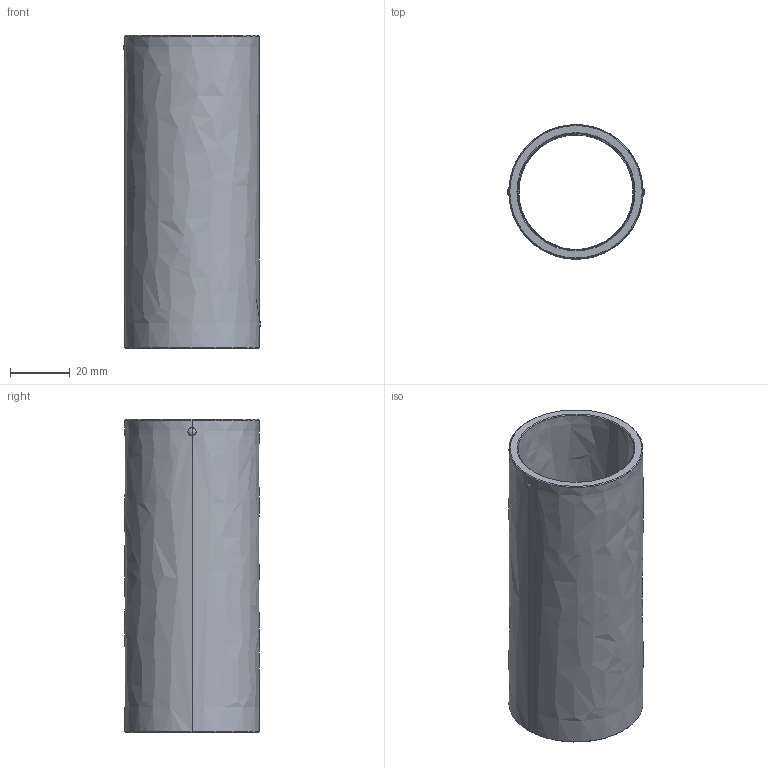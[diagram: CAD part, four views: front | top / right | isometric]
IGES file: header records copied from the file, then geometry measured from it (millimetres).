
Start section: START RECORD GO HERE.
Global section: file name: 730-38x105.igs; native system: DASSAULT SYSTEMES CATIA V5 R20 - www.3ds.com; preprocessor: CATIA Version 5 Release 20 ; author: Utente; organization: NB04-ASUS; date: 20210107.170924; units: millimetre
Bounding box: 45.99 x 45 x 105 mm (x, y, z)
Surface area: 28918.3 mm2 (no closed solid volume)
Topology: 0 solids, 0 shells, 44 faces, 240 edges, 240 vertices
Faces by surface type: revolution 36, plane 8
